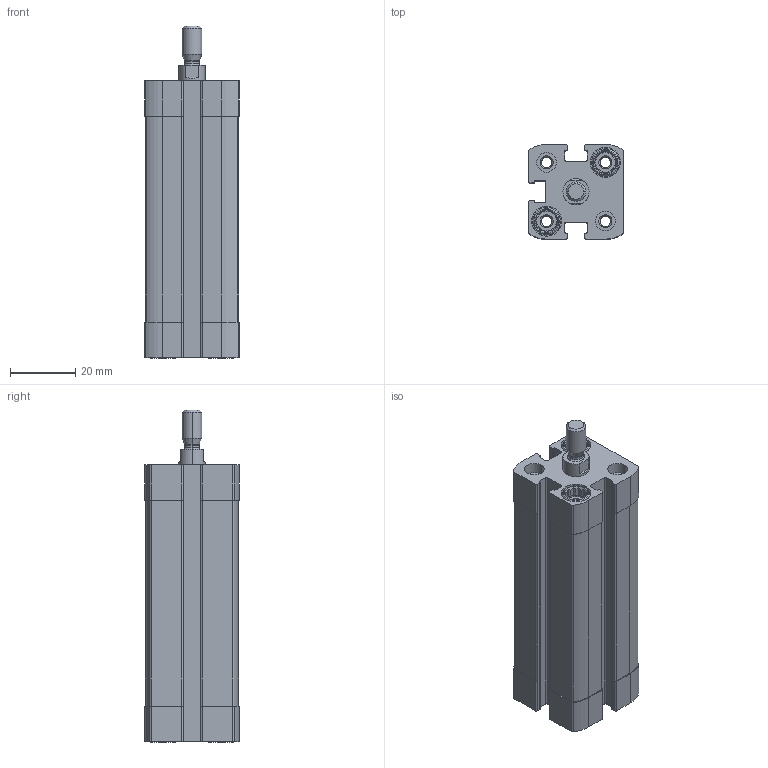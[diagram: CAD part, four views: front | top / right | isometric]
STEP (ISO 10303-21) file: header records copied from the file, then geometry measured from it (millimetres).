
FILE_DESCRIPTION (( 'STEP AP203' ), '1' );
FILE_NAME ('CCN16-50M.STEP', '2017-03-28T14:28:19', ( '' ), ( '' ), 'SwSTEP 2.0', 'SolidWorks 2016', '' );
FILE_SCHEMA (( 'CONFIG_CONTROL_DESIGN' ));
Length unit declared in the file: millimetre
Products named in the file (3): CCN-50---(Z); CCN-50_(KS); CCN16-50M
Assembly tree (2 placements, depth 2):
  CCN16-50M
    CCN-50---(Z)
    CCN-50_(KS)
Bounding box: 29 x 29 x 101.7 mm (x, y, z)
Volume: 48626.6 mm3; surface area: 25519.5 mm2
Topology: 2 solids, 2 shells, 365 faces, 938 edges, 612 vertices
Faces by surface type: plane 187, cylinder 134, cone 40, bspline 4
Entity records: 11573 total; most frequent: CARTESIAN_POINT 2280, DIRECTION 1890, ORIENTED_EDGE 1876, EDGE_CURVE 938, AXIS2_PLACEMENT_3D 686, VERTEX_POINT 612, VECTOR 518, LINE 518
